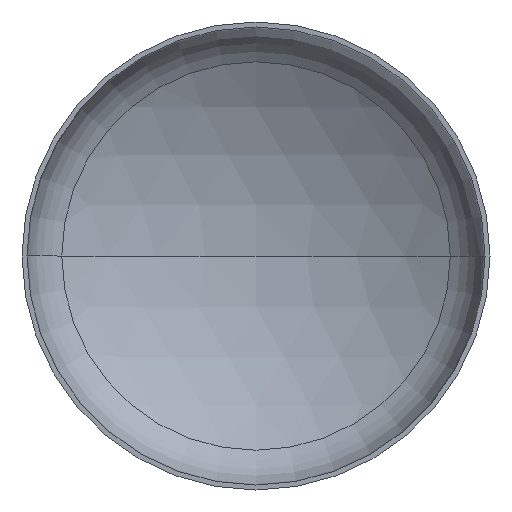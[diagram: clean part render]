
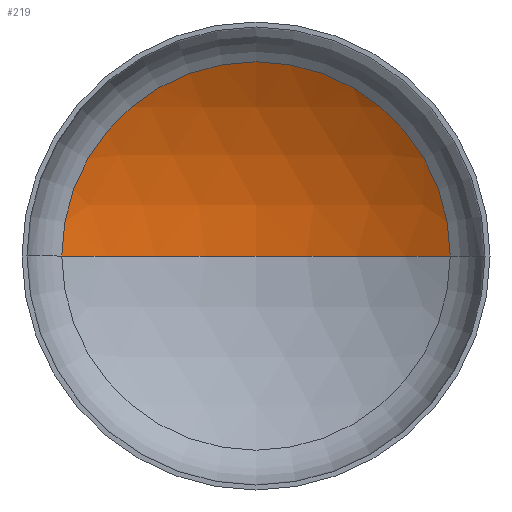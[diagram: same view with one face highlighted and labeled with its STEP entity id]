
A CAD part, front view. The second image highlights one B-rep face of the part: STEP entity #219.
In plain terms, the highlighted spherical face has radius 3600 mm.
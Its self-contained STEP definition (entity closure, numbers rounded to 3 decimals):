
#6 = VERTEX_POINT ( 'NONE', #257 ) ;
#20 = AXIS2_PLACEMENT_3D ( 'NONE', #250, #279, #179 ) ;
#21 = DIRECTION ( 'NONE',  ( 1., 0., 0. ) ) ;
#30 = EDGE_LOOP ( 'NONE', ( #139, #100, #81 ) ) ;
#39 = AXIS2_PLACEMENT_3D ( 'NONE', #196, #260, #21 ) ;
#41 = AXIS2_PLACEMENT_3D ( 'NONE', #191, #400, #267 ) ;
#42 = VERTEX_POINT ( 'NONE', #248 ) ;
#45 = AXIS2_PLACEMENT_3D ( 'NONE', #210, #205, #209 ) ;
#81 = ORIENTED_EDGE ( 'NONE', *, *, #83, .T. ) ;
#83 = EDGE_CURVE ( 'NONE', #42, #282, #202, .T. ) ;
#85 = EDGE_CURVE ( 'NONE', #6, #42, #379, .T. ) ;
#86 = EDGE_CURVE ( 'NONE', #6, #282, #372, .T. ) ;
#100 = ORIENTED_EDGE ( 'NONE', *, *, #85, .T. ) ;
#139 = ORIENTED_EDGE ( 'NONE', *, *, #86, .F. ) ;
#179 = DIRECTION ( 'NONE',  ( -1., 0., 0. ) ) ;
#182 = CARTESIAN_POINT ( 'NONE',  ( -1867.539, 744.169, 0. ) ) ;
#191 = CARTESIAN_POINT ( 'NONE',  ( 0., -2333.541, 0. ) ) ;
#196 = CARTESIAN_POINT ( 'NONE',  ( 0., -2333.541, 0. ) ) ;
#202 = CIRCLE ( 'NONE', #45, 1867.539 ) ;
#205 = DIRECTION ( 'NONE',  ( 0., -1., 0. ) ) ;
#209 = DIRECTION ( 'NONE',  ( 1., 0., 0. ) ) ;
#210 = CARTESIAN_POINT ( 'NONE',  ( 0., 744.169, 0. ) ) ;
#219 = ADVANCED_FACE ( 'NONE', ( #364 ), #369, .F. ) ;
#248 = CARTESIAN_POINT ( 'NONE',  ( 1867.539, 744.169, 0. ) ) ;
#250 = CARTESIAN_POINT ( 'NONE',  ( 0., -2333.541, 0. ) ) ;
#257 = CARTESIAN_POINT ( 'NONE',  ( 0., 1266.459, 0. ) ) ;
#260 = DIRECTION ( 'NONE',  ( 0., 0., 1. ) ) ;
#267 = DIRECTION ( 'NONE',  ( -1., 0., 0. ) ) ;
#279 = DIRECTION ( 'NONE',  ( 0., 0., -1. ) ) ;
#282 = VERTEX_POINT ( 'NONE', #182 ) ;
#364 = FACE_OUTER_BOUND ( 'NONE', #30, .T. ) ;
#369 = SPHERICAL_SURFACE ( 'NONE', #20, 3600. ) ;
#372 = CIRCLE ( 'NONE', #39, 3600. ) ;
#379 = CIRCLE ( 'NONE', #41, 3600. ) ;
#400 = DIRECTION ( 'NONE',  ( 0., 0., -1. ) ) ;
